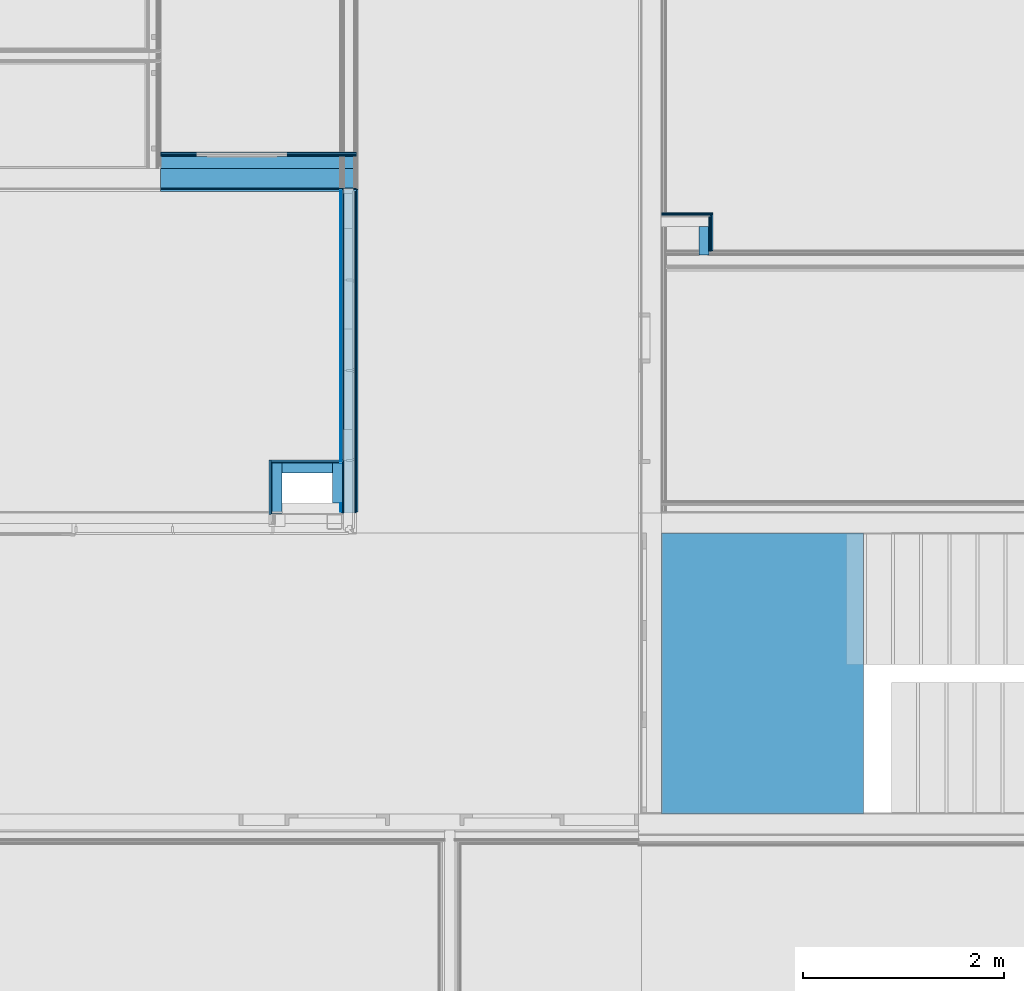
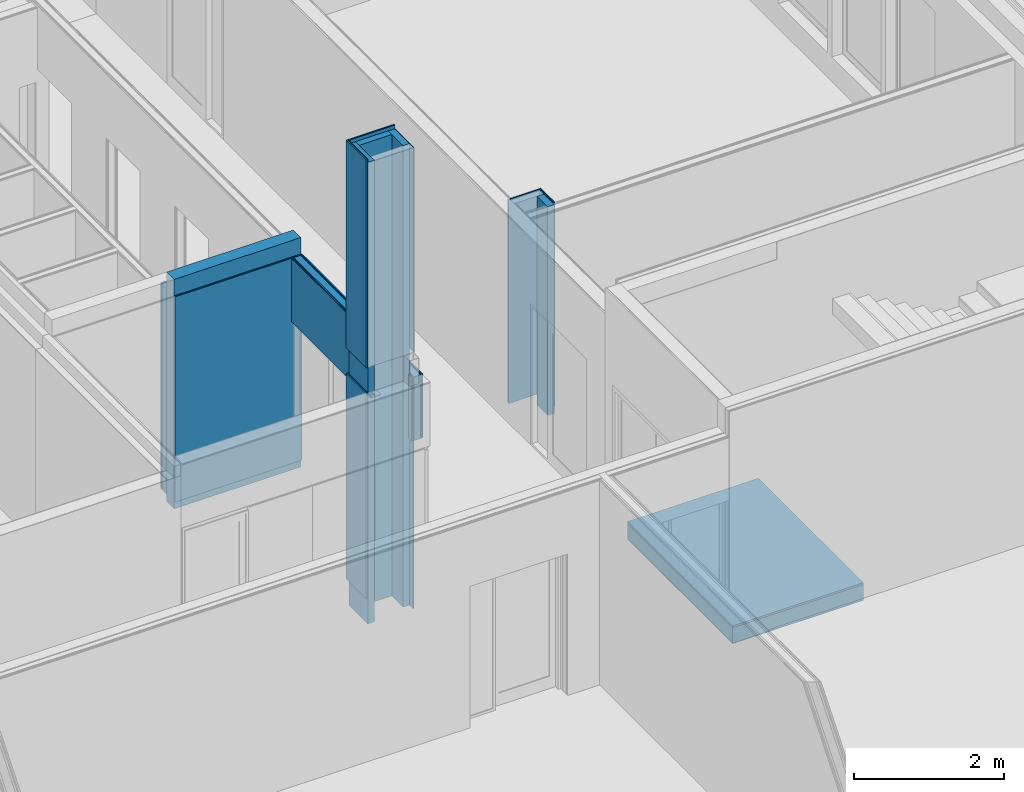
# One storey, part 111 of 139: 31 building element parts, 2 openings, 8 elements without a shape of their own.
"""IFC2X3 building model written with IfcOpenShell, lengths in millimetres."""

from ifc_helpers import new_model, entity, si_unit, converted_unit, derived_unit, money_unit, direction, frame, origin_with_axes, place, context, subcontext, project, spatial, faceted_brep, material, type_object, element, aggregate, save


model = new_model("IFC2X3")

# Units and contexts
model_context = context("Model", 3, precision=0.01, world=origin_with_axes(), true_north=direction((0.0, 1.0)))
body_context = subcontext(model_context, "Body", "Model", "MODEL_VIEW")
ifc_project = project(units=[si_unit("LENGTHUNIT", "METRE", prefix="MILLI"), si_unit("AREAUNIT", "SQUARE_METRE"), si_unit("VOLUMEUNIT", "CUBIC_METRE"), converted_unit("PLANEANGLEUNIT", "DEGREE", entity("IfcPlaneAngleMeasure", 0.0174532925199), si_unit("PLANEANGLEUNIT", "RADIAN"), dimensions=[0, 0, 0, 0, 0, 0, 0]), money_unit("EUR"), converted_unit("TIMEUNIT", "Year", entity("IfcTimeMeasure", 31556926.0), si_unit("TIMEUNIT", "SECOND"), dimensions=[0, 0, 1, 0, 0, 0, 0]), si_unit("MASSUNIT", "GRAM", prefix="KILO"), si_unit("THERMODYNAMICTEMPERATUREUNIT", "DEGREE_CELSIUS"), si_unit("LUMINOUSINTENSITYUNIT", "LUMEN"), si_unit("ENERGYUNIT", "JOULE", prefix="MEGA"), derived_unit("THERMALCONDUCTANCEUNIT", [(si_unit("POWERUNIT", "WATT"), 1), (si_unit("LENGTHUNIT", "METRE"), -1), (si_unit("THERMODYNAMICTEMPERATUREUNIT", "KELVIN"), -1)]), derived_unit("SPECIFICHEATCAPACITYUNIT", [(si_unit("ENERGYUNIT", "JOULE"), 1), (si_unit("MASSUNIT", "GRAM", prefix="KILO"), -1), (si_unit("THERMODYNAMICTEMPERATUREUNIT", "KELVIN"), -1)]), derived_unit("MASSDENSITYUNIT", [(si_unit("MASSUNIT", "GRAM", prefix="KILO"), 1), (si_unit("VOLUMEUNIT", "CUBIC_METRE"), -1)])], contexts=[model_context])

# Site, building, storey
site_placement = place(None, origin_with_axes())
site = spatial("IfcSite", under=ifc_project, at=site_placement, Name="Kolde pst 67a", CompositionType="ELEMENT")
building_placement = place(site_placement, origin_with_axes())
building = spatial("IfcBuilding", under=site, at=building_placement, Name="Riigigümnaasium", CompositionType="ELEMENT")
storey_placement = place(building_placement, frame((0.0, 0.0, 4600.0), z_axis=(0.0, 0.0, 1.0), x_axis=(1.0, 0.0, 0.0)))
storey = spatial("IfcBuildingStorey", under=building, at=storey_placement, Name="2. korrus", CompositionType="ELEMENT", Elevation=4600.0)

# Wall, openings, building element parts
wall_type_1 = type_object("IfcWallType", Name="SS-KP-20/6_plokksein dold+plaat+kollektor  390", PredefinedType="NOTDEFINED")
wall_1_placement = place(storey_placement, frame((73779.99953, 14329.3653119, -150.0), z_axis=(0.0, 0.0, 1.0), x_axis=(-1.0, 0.0, 0.0)))
wall_1 = element("IfcWall", 1, at=wall_1_placement, inside=storey, type_object=wall_type_1, Name="Sisesein")
opening_1_placement = place(wall_1_placement, frame((73779.99953, 14329.3653119, -4450.0), z_axis=(0.0, 0.0, 1.0), x_axis=(-1.0, 0.0, 0.0)))
element("IfcOpeningElement", 2, at=opening_1_placement, cuts=wall_1, Name="Tulekustuti nišš vastavalt SA osale", ObjectType="OPENING", context=body_context, shape_type="Brep", body=[
    faceted_brep([(73344.9995301, 14289.3653119, 5380.0), (73344.9995301, 14289.3653119, 6700.0), (73344.9995301, 14489.3653119, 6700.0), (73344.9995301, 14489.3653119, 5380.0), (73594.9995301, 14289.3653119, 5380.0), (73594.9995301, 14289.3653119, 6700.0), (73594.9995301, 14489.3653119, 6700.0), (73594.9995301, 14489.3653119, 5380.0)], [[[0, 1, 2, 3]], [[0, 4, 5, 1]], [[1, 5, 6, 2]], [[3, 2, 6, 7]], [[4, 0, 3, 7]], [[5, 4, 7, 6]]]),
])
opening_2_placement = place(wall_1_placement, frame((73779.99953, 14329.3653119, -4450.0), z_axis=(0.0, 0.0, 1.0), x_axis=(-1.0, 0.0, 0.0)))
element("IfcOpeningElement", 3, at=opening_2_placement, cuts=wall_1, Name="Küttekollektori nišš, luuk vastavalt SA osale", ObjectType="OPENING", context=body_context, shape_type="Brep", body=[
    faceted_brep([(73089.99953, 14489.3653119, 4600.0), (73089.99953, 14489.3653119, 5500.0), (73089.99953, 14329.3653119, 5500.0), (73089.99953, 14329.3653119, 4600.0), (72189.99953, 14489.3653119, 4600.0), (72189.99953, 14489.3653119, 5500.0), (72189.99953, 14329.3653119, 5500.0), (72189.99953, 14329.3653119, 4600.0)], [[[0, 1, 2, 3]], [[0, 4, 5, 1]], [[1, 5, 6, 2]], [[3, 2, 6, 7]], [[4, 0, 3, 7]], [[5, 4, 7, 6]]]),
])
ifc_material_1 = material(Name="_VIIMISTLUSKIHT - viimistlus vastavalt SA osale")
building_element_part_1_placement = place(wall_1_placement, origin_with_axes())
building_element_part_1 = element("IfcBuildingElementPart", 4, at=building_element_part_1_placement, material=ifc_material_1, Name="_VIIMISTLUSKIHT - viimistlus vastavalt SA osale", context=body_context, shape_type="Brep", body=[
    faceted_brep([(1949.99934989, 210.0, 3485.0), (0.0, 210.0, 3485.0), (0.0, 210.0, 150.0), (1949.99934989, 210.0, 150.0), (0.0, 230.0, 3485.0), (1949.99934989, 230.0, 3485.0), (0.0, 230.0, 150.0), (1949.99934989, 230.0, 150.0)], [[[0, 1, 2, 3]], [[4, 1, 0, 5]], [[1, 4, 6, 2]], [[3, 2, 6, 7]], [[5, 0, 3, 7]], [[4, 5, 7, 6]]]),
])
ifc_material_2 = material(Name="_KARKASS - eriprofiilkinnitus vastavalt sisemisele plaatviimistlusele")
building_element_part_2_placement = place(wall_1_placement, origin_with_axes())
building_element_part_2 = element("IfcBuildingElementPart", 5, at=building_element_part_2_placement, material=ifc_material_2, Name="_KARKASS - eriprofiilkinnitus vastavalt sisemisele plaatviimistlusele", context=body_context, shape_type="Brep", body=[
    faceted_brep([(1949.99934989, 200.0, 3485.0), (0.0, 200.0, 3485.0), (0.0, 200.0, 147.0), (1949.99934989, 200.0, 147.0), (0.0, 210.0, 3485.0), (1949.99934989, 210.0, 3485.0), (0.0, 210.0, 147.0), (1949.99934989, 210.0, 147.0)], [[[0, 1, 2, 3]], [[4, 1, 0, 5]], [[1, 4, 6, 2]], [[3, 2, 6, 7]], [[5, 0, 3, 7]], [[4, 5, 7, 6]]]),
])
ifc_material_3 = material(Name="_KANDETARIND - kergplokk Fibo3 200mm")
building_element_part_3_placement = place(wall_1_placement, origin_with_axes())
building_element_part_3 = element("IfcBuildingElementPart", 6, at=building_element_part_3_placement, material=ifc_material_3, Name="_KANDETARIND - kergplokk Fibo3 200mm", context=body_context, shape_type="Brep", body=[
    faceted_brep([(1949.99934989, 0.0, 3750.0), (0.0, 0.0, 3750.0), (0.0, 0.0, 20.0), (1949.99934989, 0.0, 20.0), (184.999999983, 0.0, 2250.0), (434.999999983, 0.0, 2250.0), (434.999999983, 0.0, 930.0), (184.999999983, 0.0, 930.0), (0.0, 129.365339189, 3750.0), (1949.99934989, 200.0, 3750.0), (0.0, 200.0, 3750.0), (0.0, 200.0, 20.0), (0.0, 129.365339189, 20.0), (1949.99934989, 200.0, 20.0), (184.999999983, 39.999999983, 2250.0), (434.999999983, 39.999999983, 2250.0), (434.999999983, 39.999999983, 930.0), (184.999999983, 39.999999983, 930.0)], [[[0, 1, 2, 3], [4, 5, 6, 7]], [[8, 1, 0, 9, 10]], [[1, 8, 10, 11, 12, 2]], [[3, 2, 12, 11, 13]], [[0, 3, 13, 9]], [[14, 15, 5, 4]], [[15, 16, 6, 5]], [[16, 17, 7, 6]], [[17, 14, 4, 7]], [[10, 9, 13, 11]], [[17, 16, 15, 14]]]),
])
building_element_part_4_placement = place(wall_1_placement, origin_with_axes())
building_element_part_4 = element("IfcBuildingElementPart", 7, at=building_element_part_4_placement, material=ifc_material_2, Name="_KARKASS - eriprofiilkinnitus vastavalt sisemisele plaatviimistlusele", context=body_context, shape_type="Brep", body=[
    faceted_brep([(1949.99934989, -120.0, 135.0), (1949.99934989, -120.0, 3485.0), (0.0, -120.0, 3485.0), (0.0, -120.0, 135.0), (184.999999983, -120.0, 930.0), (184.999999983, -120.0, 2250.0), (434.999999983, -120.0, 2250.0), (434.999999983, -120.0, 930.0), (690.0, -120.0, 150.0), (690.0, -120.0, 1050.0), (1590.0, -120.0, 1050.0), (1590.0, -120.0, 150.0), (1949.99934989, 0.0, 135.0), (1949.99934989, 0.0, 3485.0), (0.0, 0.0, 3485.0), (0.0, 0.0, 135.0), (184.999999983, 0.0, 930.0), (184.999999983, 0.0, 2250.0), (434.999999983, 0.0, 2250.0), (434.999999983, 0.0, 930.0), (690.0, 0.0, 150.0), (690.0, 0.0, 1050.0), (1590.0, 0.0, 1050.0), (1590.0, 0.0, 150.0)], [[[0, 1, 2, 3], [4, 5, 6, 7], [8, 9, 10, 11]], [[12, 13, 1, 0]], [[13, 14, 2, 1]], [[3, 2, 14, 15]], [[12, 0, 3, 15]], [[4, 16, 17, 5]], [[5, 17, 18, 6]], [[6, 18, 19, 7]], [[7, 19, 16, 4]], [[8, 20, 21, 9]], [[9, 21, 22, 10]], [[10, 22, 23, 11]], [[11, 23, 20, 8]], [[15, 14, 13, 12], [18, 17, 16, 19], [22, 21, 20, 23]]]),
])
ifc_material_4 = material(Name="_PLAATMATERJAL - kipsplaat veekindel")
building_element_part_5_placement = place(wall_1_placement, origin_with_axes())
building_element_part_5 = element("IfcBuildingElementPart", 8, at=building_element_part_5_placement, material=ifc_material_4, Name="_PLAATMATERJAL - kipsplaat veekindel", context=body_context, shape_type="Brep", body=[
    faceted_brep([(1949.99934989, -132.5, 135.0), (1949.99934989, -132.5, 3485.0), (0.0, -132.5, 3485.0), (0.0, -132.5, 135.0), (184.999999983, -132.5, 930.0), (184.999999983, -132.5, 2250.0), (434.999999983, -132.5, 2250.0), (434.999999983, -132.5, 930.0), (1590.00002726, -132.500005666, 1650.0), (1590.00002726, -132.500005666, 1050.0), (1590.0, -132.5, 150.0), (690.0, -132.5, 150.0), (690.000009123, -132.500005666, 1050.0), (690.000009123, -132.500005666, 1650.0), (1949.99934989, -120.0, 135.0), (1949.99934989, -120.0, 3485.0), (0.0, -120.0, 3485.0), (0.0, -120.0, 135.0), (184.999999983, -120.0, 930.0), (184.999999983, -120.0, 2250.0), (434.999999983, -120.0, 2250.0), (434.999999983, -120.0, 930.0), (1590.00002726, -120.000005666, 1650.0), (1590.00002726, -120.000005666, 1050.0), (1590.0, -120.0, 150.0), (690.0, -120.0, 150.0), (690.000009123, -120.000005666, 1050.0), (690.000009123, -120.000005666, 1650.0)], [[[0, 1, 2, 3], [4, 5, 6, 7], [8, 9, 10, 11, 12, 13]], [[14, 15, 1, 0]], [[15, 16, 2, 1]], [[3, 2, 16, 17]], [[14, 0, 3, 17]], [[4, 18, 19, 5]], [[5, 19, 20, 6]], [[6, 20, 21, 7]], [[7, 21, 18, 4]], [[9, 8, 22, 23]], [[9, 23, 24, 10]], [[10, 24, 25, 11]], [[26, 12, 11, 25]], [[13, 12, 26, 27]], [[8, 13, 27, 22]], [[17, 16, 15, 14], [20, 19, 18, 21], [27, 26, 25, 24, 23, 22]]]),
])
building_element_part_6_placement = place(wall_1_placement, origin_with_axes())
building_element_part_6 = element("IfcBuildingElementPart", 9, at=building_element_part_6_placement, material=ifc_material_4, Name="_PLAATMATERJAL - kipsplaat veekindel", context=body_context, shape_type="Brep", body=[
    faceted_brep([(1949.99934989, -145.0, 135.0), (1949.99934989, -145.0, 3485.0), (0.0, -145.0, 3485.0), (0.0, -145.0, 135.0), (184.999999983, -145.0, 930.0), (184.999999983, -145.0, 2250.0), (434.999999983, -145.0, 2250.0), (434.999999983, -145.0, 930.0), (1590.00002726, -145.000005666, 1650.0), (1590.00002726, -145.000005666, 1050.0), (1590.0, -145.0, 150.0), (690.0, -145.0, 150.0), (690.000009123, -145.000005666, 1050.0), (690.000009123, -145.000005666, 1650.0), (1949.99934989, -132.5, 135.0), (1949.99934989, -132.5, 3485.0), (0.0, -132.5, 3485.0), (0.0, -132.5, 135.0), (184.999999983, -132.5, 930.0), (184.999999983, -132.5, 2250.0), (434.999999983, -132.5, 2250.0), (434.999999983, -132.5, 930.0), (1590.00002726, -132.500005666, 1650.0), (1590.00002726, -132.500005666, 1050.0), (1590.0, -132.5, 150.0), (690.0, -132.5, 150.0), (690.000009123, -132.500005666, 1050.0), (690.000009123, -132.500005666, 1650.0)], [[[0, 1, 2, 3], [4, 5, 6, 7], [8, 9, 10, 11, 12, 13]], [[14, 15, 1, 0]], [[15, 16, 2, 1]], [[3, 2, 16, 17]], [[14, 0, 3, 17]], [[4, 18, 19, 5]], [[5, 19, 20, 6]], [[6, 20, 21, 7]], [[7, 21, 18, 4]], [[9, 8, 22, 23]], [[9, 23, 24, 10]], [[10, 24, 25, 11]], [[26, 12, 11, 25]], [[13, 12, 26, 27]], [[8, 13, 27, 22]], [[17, 16, 15, 14], [20, 19, 18, 21], [27, 26, 25, 24, 23, 22]]]),
])
building_element_part_7_placement = place(wall_1_placement, origin_with_axes())
building_element_part_7 = element("IfcBuildingElementPart", 10, at=building_element_part_7_placement, material=ifc_material_1, Name="_VIIMISTLUSKIHT - viimistlus vastavalt SA osale", context=body_context, shape_type="Brep", body=[
    faceted_brep([(1590.00002726, -160.000005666, 1650.0), (1590.00002726, -160.000005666, 1050.0), (1590.0, -160.0, 150.0), (1949.99934989, -160.0, 150.0), (1949.99934989, -160.0, 3485.0), (0.0, -160.0, 3485.0), (0.0, -160.0, 150.0), (690.0, -160.0, 150.0), (690.000009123, -160.000005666, 1050.0), (690.000009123, -160.000005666, 1650.0), (184.999999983, -160.000000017, 930.0), (184.999999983, -160.000000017, 2250.0), (434.999999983, -160.000000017, 2250.0), (434.999999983, -160.000000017, 930.0), (1590.00002726, -145.000005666, 1650.0), (1590.00002726, -145.000005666, 1050.0), (1590.0, -145.0, 150.0), (1949.99934989, -145.0, 150.0), (1949.99934989, -145.0, 3485.0), (0.0, -145.0, 3485.0), (0.0, -145.0, 150.0), (690.0, -145.0, 150.0), (690.000009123, -145.000005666, 1050.0), (690.000009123, -145.000005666, 1650.0), (184.999999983, -145.0, 930.0), (184.999999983, -145.0, 2250.0), (434.999999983, -145.0, 2250.0), (434.999999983, -145.0, 930.0)], [[[0, 1, 2, 3, 4, 5, 6, 7, 8, 9], [10, 11, 12, 13]], [[1, 0, 14, 15]], [[1, 15, 16, 2]], [[17, 3, 2, 16]], [[17, 18, 4, 3]], [[18, 19, 5, 4]], [[6, 5, 19, 20]], [[21, 7, 6, 20]], [[22, 8, 7, 21]], [[9, 8, 22, 23]], [[0, 9, 23, 14]], [[10, 24, 25, 11]], [[11, 25, 26, 12]], [[12, 26, 27, 13]], [[13, 27, 24, 10]], [[23, 22, 21, 20, 19, 18, 17, 16, 15, 14], [26, 25, 24, 27]]]),
])
aggregate(wall_1, [building_element_part_1, building_element_part_2, building_element_part_3, building_element_part_4, building_element_part_5, building_element_part_6, building_element_part_7])

# Wall, building element parts
wall_type_2 = type_object("IfcWallType", Name="SS-MK-10/7_ plaat+krohv 175", PredefinedType="NOTDEFINED")
wall_2_placement = place(storey_placement, frame((73654.99953, 14119.3653119, 2300.0), z_axis=(0.0, 0.0, 1.0), x_axis=(0.0, -1.0, 0.0)))
wall_2 = element("IfcWall", 11, at=wall_2_placement, inside=storey, type_object=wall_type_2, Name="Sisesein")
building_element_part_8_placement = place(wall_2_placement, origin_with_axes())
building_element_part_8 = element("IfcBuildingElementPart", 12, at=building_element_part_8_placement, material=ifc_material_1, Name="_VIIMISTLUSKIHT - viimistlus vastavalt SA osale", context=body_context, shape_type="Brep", body=[
    faceted_brep([(0.0, 125.0, 1035.0), (0.0, 140.0, 1035.0), (0.0, 140.0, 0.0), (0.0, 125.0, 0.0), (3209.40337125, 125.0, 1035.0), (3209.40337125, 140.0, 1035.0), (3209.40337125, 140.0, 0.0), (3209.40337125, 125.0, 0.0)], [[[0, 1, 2, 3]], [[1, 0, 4, 5]], [[1, 5, 6, 2]], [[6, 7, 3, 2]], [[0, 3, 7, 4]], [[5, 4, 7, 6]]]),
])
ifc_material_5 = material(Name="_PLAATMATERJAL - tuletõkkekipsplaat, Knauf Red GKF või samaväärne")
building_element_part_9_placement = place(wall_2_placement, origin_with_axes())
building_element_part_9 = element("IfcBuildingElementPart", 13, at=building_element_part_9_placement, material=ifc_material_5, Name="_PLAATMATERJAL - tuletõkkekipsplaat, Knauf Red GKF või samaväärne", context=body_context, shape_type="Brep", body=[
    faceted_brep([(0.0, 112.5, 1035.0), (0.0, 125.0, 1035.0), (0.0, 125.0, 0.0), (0.0, 112.5, 0.0), (3219.40337125, 112.5, 1035.0), (3219.40337125, 125.0, 1035.0), (3219.40337125, 125.0, 0.0), (3219.40337125, 112.5, 0.0)], [[[0, 1, 2, 3]], [[1, 0, 4, 5]], [[1, 5, 6, 2]], [[6, 7, 3, 2]], [[0, 3, 7, 4]], [[5, 4, 7, 6]]]),
])
building_element_part_10_placement = place(wall_2_placement, origin_with_axes())
building_element_part_10 = element("IfcBuildingElementPart", 14, at=building_element_part_10_placement, material=ifc_material_5, Name="_PLAATMATERJAL - tuletõkkekipsplaat, Knauf Red GKF või samaväärne", context=body_context, shape_type="Brep", body=[
    faceted_brep([(0.0, 100.0, 1035.0), (0.0, 112.5, 1035.0), (0.0, 112.5, 0.0), (0.0, 100.0, 0.0), (3219.40337125, 100.0, 1035.0), (3219.40337125, 112.5, 1035.0), (3219.40337125, 112.5, 0.0), (3219.40337125, 100.0, 0.0)], [[[0, 1, 2, 3]], [[1, 0, 4, 5]], [[1, 5, 6, 2]], [[6, 7, 3, 2]], [[0, 3, 7, 4]], [[5, 4, 7, 6]]]),
])
ifc_material_6 = material(Name="_KARKASS - metallkarkass CW 100/50/06 ja UW 100/40/06, samm 600, vahel mineraalvill, helineeldetegur αw = 1.0,  ISOVER ACOUSTIC 100mm või samaväärne")
building_element_part_11_placement = place(wall_2_placement, origin_with_axes())
building_element_part_11 = element("IfcBuildingElementPart", 15, at=building_element_part_11_placement, material=ifc_material_6, Name="_KARKASS - metallkarkass CW 100/50/06 ja UW 100/40/06, samm 600, vahel mineraalvill, helineeldetegur αw = 1.0,  ISOVER ACOUSTIC 100mm või samaväärne", context=body_context, shape_type="Brep", body=[
    faceted_brep([(0.0, 0.0, 1035.0), (0.0, 100.0, 1035.0), (0.0, 100.0, 0.0), (0.0, 0.0, 0.0), (3219.40337125, 0.0, 1035.0), (3219.40337125, 100.0, 1035.0), (3219.40337125, 100.0, 0.0), (3219.40337125, 0.0, 0.0)], [[[0, 1, 2, 3]], [[1, 0, 4, 5]], [[1, 5, 6, 2]], [[6, 7, 3, 2]], [[0, 3, 7, 4]], [[5, 4, 7, 6]]]),
])
building_element_part_12_placement = place(wall_2_placement, origin_with_axes())
building_element_part_12 = element("IfcBuildingElementPart", 16, at=building_element_part_12_placement, material=ifc_material_5, Name="_PLAATMATERJAL - tuletõkkekipsplaat, Knauf Red GKF või samaväärne", context=body_context, shape_type="Brep", body=[
    faceted_brep([(2724.42514809, -4.99999532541, 1035.0), (3219.40337125, -4.99999532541, 1035.0), (3219.40337125, 0.0, 1035.0), (0.0, 0.0, 1035.0), (0.0, -12.5, 1035.0), (2724.42514809, -12.5, 1035.0), (2724.42514809, -4.99999532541, 0.0), (3219.40337125, -4.99999532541, 0.0), (3219.40337125, 0.0, 0.0), (0.0, 0.0, 0.0), (0.0, -12.5, 0.0), (2724.42514809, -12.5, 0.0)], [[[0, 1, 2, 3, 4, 5]], [[1, 0, 6, 7]], [[1, 7, 8, 2]], [[9, 3, 2, 8]], [[10, 4, 3, 9]], [[11, 5, 4, 10]], [[0, 5, 11, 6]], [[6, 11, 10, 9, 8, 7]]]),
])
building_element_part_13_placement = place(wall_2_placement, origin_with_axes())
building_element_part_13 = element("IfcBuildingElementPart", 17, at=building_element_part_13_placement, material=ifc_material_5, Name="_PLAATMATERJAL - tuletõkkekipsplaat, Knauf Red GKF või samaväärne", context=body_context, shape_type="Brep", body=[
    faceted_brep([(3219.40337125, -14.9999953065, 1035.0), (3124.42589766, -14.9999949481, 1035.0), (3124.42589766, -14.9999953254, 1040.0), (3219.40337125, -14.999993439, 1040.0), (3124.42589766, -14.9999953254, 0.0), (3219.40337125, -14.9999953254, 0.0), (3124.42589766, -25.0, 0.0), (3124.42589766, -25.0, 1040.0), (3219.40337125, -25.0, 1040.0), (3219.40337125, -25.0, 0.0)], [[[0, 1, 2, 3]], [[4, 1, 0, 5]], [[1, 4, 6, 7, 2]], [[2, 7, 8, 3]], [[5, 0, 3, 8, 9]], [[4, 5, 9, 6]], [[7, 6, 9, 8]]]),
    faceted_brep([(2724.42514809, -14.999993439, 1035.0), (2724.42514809, -12.5, 1035.0), (0.0, -12.5, 1035.0), (0.0, -25.0, 1035.0), (2724.42514809, -25.0, 1035.0), (2724.42514809, -12.5, 0.0), (2724.42514809, -25.0, 0.0), (0.0, -12.5, 0.0), (0.0, -25.0, 0.0)], [[[0, 1, 2, 3, 4]], [[5, 1, 0, 4, 6]], [[1, 5, 7, 2]], [[8, 3, 2, 7]], [[6, 4, 3, 8]], [[5, 6, 8, 7]]]),
])
building_element_part_14_placement = place(wall_2_placement, origin_with_axes())
building_element_part_14 = element("IfcBuildingElementPart", 18, at=building_element_part_14_placement, material=ifc_material_1, Name="_VIIMISTLUSKIHT - viimistlus vastavalt SA osale", context=body_context, shape_type="Brep", body=[
    faceted_brep([(3124.42589766, -25.0, 0.0), (3124.42589766, -25.0, 1040.0), (3209.40337125, -25.0, 1040.0), (3209.40337125, -25.0, 0.0), (3124.42589766, -35.0, 1040.0), (3124.42589766, -35.0, 0.0), (3209.40337125, -35.0, 1040.0), (3209.40337125, -35.0, 0.0)], [[[0, 1, 2, 3]], [[4, 1, 0, 5]], [[1, 4, 6, 2]], [[6, 7, 3, 2]], [[5, 0, 3, 7]], [[4, 5, 7, 6]]]),
    faceted_brep([(2724.42514809, -35.0, 1035.0), (2724.42514809, -25.0, 1035.0), (0.0, -25.0, 1035.0), (0.0, -35.0, 1035.0), (2724.42514809, -25.0, 0.0), (2724.42514809, -35.0, 0.0), (0.0, -25.0, 0.0), (0.0, -35.0, 0.0)], [[[0, 1, 2, 3]], [[4, 1, 0, 5]], [[1, 4, 6, 2]], [[7, 3, 2, 6]], [[5, 0, 3, 7]], [[4, 5, 7, 6]]]),
])
aggregate(wall_2, [building_element_part_8, building_element_part_9, building_element_part_10, building_element_part_11, building_element_part_12, building_element_part_13, building_element_part_14])

# Slab, building element parts
slab_type = type_object("IfcSlabType", Name="VL-RB-25/1_+puitkilp trepikodades 290", PredefinedType="NOTDEFINED")
slab_placement = place(storey_placement, frame((76819.3676584, 7900.00534881, 0.0), z_axis=(0.0, 0.0, 1.0), x_axis=(1.0, 0.0, 0.0)))
slab = element("IfcSlab", 19, at=slab_placement, inside=storey, type_object=slab_type, Name="VAHELAGI", PredefinedType="NOTDEFINED")
building_element_part_15_placement = place(slab_placement, origin_with_axes())
building_element_part_15 = element("IfcBuildingElementPart", 20, at=building_element_part_15_placement, material=ifc_material_1, Name="_VIIMISTLUSKIHT - viimistlus vastavalt SA osale", context=body_context, shape_type="Brep", body=[
    faceted_brep([(2010.27548552, 0.0468545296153, -30.0), (2010.27548552, 0.0468545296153, 0.0), (0.0, 0.0, 0.0), (0.0, 0.0, -30.0), (2010.2492837, 1499.97395828, -30.0), (2010.2492837, 1499.97395828, 0.0), (2010.2492837, 2799.95659577, 0.0), (0.0, 2799.95659577, 0.0), (0.0, 2799.95659577, -30.0), (2010.2492837, 2799.95659577, -30.0)], [[[0, 1, 2, 3]], [[4, 5, 1, 0]], [[2, 1, 5, 6, 7]], [[3, 2, 7, 8]], [[3, 8, 9, 4, 0]], [[9, 6, 5, 4]], [[8, 7, 6, 9]]]),
])
ifc_material_7 = material(Name="_KANDETARIND - monteeritav raudbetoon vastavalt EK osale")
building_element_part_16_placement = place(slab_placement, origin_with_axes())
building_element_part_16 = element("IfcBuildingElementPart", 21, at=building_element_part_16_placement, material=ifc_material_7, Name="_KANDETARIND - monteeritav raudbetoon vastavalt EK osale", context=body_context, shape_type="Brep", body=[
    faceted_brep([(2010.27548552, 0.0468545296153, -280.0), (2010.27548552, 0.0468545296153, -30.0), (0.0, 0.0, -30.0), (0.0, 0.0, -280.0), (2010.2492837, 1499.97395828, -280.0), (2010.2492837, 1499.97395828, -30.0), (2010.2492837, 2799.95659577, -30.0), (0.0, 2799.95659577, -30.0), (0.0, 2799.95659577, -280.0), (2010.2492837, 2799.95659577, -280.0)], [[[0, 1, 2, 3]], [[4, 5, 1, 0]], [[2, 1, 5, 6, 7]], [[3, 2, 7, 8]], [[3, 8, 9, 4, 0]], [[9, 6, 5, 4]], [[8, 7, 6, 9]]]),
])
building_element_part_17_placement = place(slab_placement, origin_with_axes())
building_element_part_17 = element("IfcBuildingElementPart", 22, at=building_element_part_17_placement, material=ifc_material_1, Name="_VIIMISTLUSKIHT - viimistlus vastavalt SA osale", context=body_context, shape_type="Brep", body=[
    faceted_brep([(0.0, 0.0, -290.0), (2010.27548552, 0.0468545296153, -290.0), (2010.27548552, 0.0468545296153, -280.0), (0.0, 0.0, -280.0), (0.0, 2799.95659577, -290.0), (2010.2492837, 2799.95659577, -290.0), (2010.2492837, 1499.97395828, -290.0), (2010.2492837, 1499.97395828, -280.0), (2010.2492837, 2799.95659577, -280.0), (0.0, 2799.95659577, -280.0)], [[[0, 1, 2, 3]], [[0, 4, 5, 6, 1]], [[1, 6, 7, 2]], [[3, 2, 7, 8, 9]], [[4, 0, 3, 9]], [[5, 4, 9, 8]], [[6, 5, 8, 7]]]),
])
aggregate(slab, [building_element_part_15, building_element_part_16, building_element_part_17])

# Wall, building element parts
wall_type_3 = type_object("IfcWallType", Name="SS-KP-10/1_1x dold 130", PredefinedType="NOTDEFINED")
wall_3_placement = place(storey_placement, frame((72939.9987844, 11394.9401664, -425.0), z_axis=(0.0, 0.0, 1.0), x_axis=(-3.77272043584e-09, -1.0, 0.0)))
wall_3 = element("IfcWall", 23, at=wall_3_placement, inside=storey, type_object=wall_type_3, Name="SE šaht")
ifc_material_8 = material(Name="_KANDETARIND - kergplokk Fibo 100mm")
building_element_part_18_placement = place(wall_3_placement, origin_with_axes())
building_element_part_18 = element("IfcBuildingElementPart", 24, at=building_element_part_18_placement, material=ifc_material_8, Name="_KANDETARIND - kergplokk Fibo 100mm", context=body_context, shape_type="Brep", body=[
    faceted_brep([(500.000751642, 100.000001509, 7500.0), (500.00075183, 100.000001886, 0.0), (2.26364527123e-06, 100.0, 0.0), (2.26364527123e-06, 99.9999999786, 7500.0), (500.000752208, 1.88636306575e-06, 0.0), (500.000752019, 1.88636306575e-06, 7500.0), (2.64091681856e-06, 0.0, 0.0), (2.64091681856e-06, 0.0, 7500.0)], [[[0, 1, 2, 3]], [[4, 1, 0, 5]], [[1, 4, 6, 2]], [[2, 6, 7, 3]], [[5, 0, 3, 7]], [[4, 5, 7, 6]]]),
])
building_element_part_19_placement = place(wall_3_placement, origin_with_axes())
building_element_part_19 = element("IfcBuildingElementPart", 25, at=building_element_part_19_placement, material=ifc_material_2, Name="_KARKASS - eriprofiilkinnitus vastavalt sisemisele plaatviimistlusele", context=body_context, shape_type="Brep", body=[
    faceted_brep([(-9.99999732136, -10.0000000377, 3760.0), (-9.99999735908, -3.77298192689e-08, 3760.0), (-9.99999735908, -3.77298192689e-08, 425.0), (-9.99999732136, -10.0000000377, 425.0), (0.0, 0.0, 3760.0), (510.000748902, -9.99999807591, 3760.0), (510.000748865, 1.92409288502e-06, 3760.0), (500.000752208, 0.0, 3760.0), (510.000722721, 1.92409288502e-06, 425.0), (500.000694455, 1.91708551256e-05, 425.0), (0.000100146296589, 1.72844920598e-05, 425.0), (510.000722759, -9.99999807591, 425.0)], [[[0, 1, 2, 3]], [[4, 1, 0, 5, 6, 7]], [[7, 6, 8, 9, 10, 2, 1, 4]], [[11, 3, 2, 10, 9, 8]], [[5, 0, 3, 11]], [[6, 5, 11, 8]]]),
    faceted_brep([(500.000752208, 0.0, 4175.0), (0.0, 0.0, 4175.0), (-9.99999735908, -3.77298192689e-08, 4175.0), (-9.99999735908, -3.77298192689e-08, 7555.00000071), (510.000752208, 1.92409288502e-06, 7555.0), (510.000752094, 1.92409288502e-06, 4175.0), (-9.99999732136, -10.0000000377, 4175.0), (510.000752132, -9.99999807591, 4175.0), (-9.99999732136, -10.0000000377, 7555.00000072), (510.000752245, -9.99999807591, 7555.0)], [[[0, 1, 2, 3, 4, 5]], [[6, 2, 1, 0, 5, 7]], [[2, 6, 8, 3]], [[9, 4, 3, 8]], [[7, 5, 4, 9]], [[6, 7, 9, 8]]]),
])
ifc_material_9 = material(Name="_VIIMISTLUSKIHT - Dold plaat vastavalt SA osale")
building_element_part_20_placement = place(wall_3_placement, origin_with_axes())
building_element_part_20 = element("IfcBuildingElementPart", 26, at=building_element_part_20_placement, material=ifc_material_9, Name="_VIIMISTLUSKIHT - Dold plaat vastavalt SA osale", context=body_context, shape_type="Brep", body=[
    faceted_brep([(-29.9999972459, -30.0000001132, 3760.0), (-29.9999973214, -10.0000001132, 3760.0), (-29.9999973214, -10.0000001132, 425.0), (-29.9999972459, -30.0000001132, 425.0), (510.000748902, -9.99999807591, 3760.0), (510.000748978, -30.000007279, 3760.0), (510.000722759, -9.99999807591, 425.0), (510.000722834, -30.0000655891, 425.0)], [[[0, 1, 2, 3]], [[4, 1, 0, 5]], [[1, 4, 6, 2]], [[7, 3, 2, 6]], [[5, 0, 3, 7]], [[4, 5, 7, 6]]]),
    faceted_brep([(510.000752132, -9.99999807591, 4175.0), (-29.9999973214, -10.0000001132, 4175.0), (-29.9999973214, -10.0000001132, 7555.00000075), (510.000752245, -9.99999807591, 7555.0), (-29.9999972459, -30.0000001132, 4175.0), (510.000752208, -30.0000000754, 4175.0), (-29.9999972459, -30.0000001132, 7555.00000075), (510.000752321, -29.9999980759, 7555.0)], [[[0, 1, 2, 3]], [[4, 1, 0, 5]], [[1, 4, 6, 2]], [[7, 3, 2, 6]], [[5, 0, 3, 7]], [[4, 5, 7, 6]]]),
])
aggregate(wall_3, [building_element_part_18, building_element_part_19, building_element_part_20])

wall_type_4 = type_object("IfcWallType", Name="SS-KP-10/4_SE šahti sein +krohv 110", PredefinedType="NOTDEFINED")
wall_4_placement = place(storey_placement, frame((73639.9995347, 10894.9394116, -425.0), z_axis=(0.0, 0.0, 1.0), x_axis=(3.77272045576e-09, 1.0, 0.0)))
wall_4 = element("IfcWall", 27, at=wall_4_placement, inside=storey, type_object=wall_type_4, Name="SE šaht")
building_element_part_21_placement = place(wall_4_placement, origin_with_axes())
building_element_part_21 = element("IfcBuildingElementPart", 28, at=building_element_part_21_placement, material=ifc_material_8, Name="_KANDETARIND - kergplokk Fibo 100mm", context=body_context, shape_type="Brep", body=[
    faceted_brep([(100.000002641, 3.77269770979e-07, 0.0), (500.000752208, 1.88636306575e-06, 0.0), (500.000752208, 1.88636306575e-06, 7500.0), (100.000002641, 3.77269770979e-07, 7500.0), (100.000002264, 100.000000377, 0.0), (500.00075183, 100.000001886, 0.0), (500.00075183, 100.000001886, 7500.0), (100.000002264, 100.000000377, 7500.0)], [[[0, 1, 2, 3]], [[4, 5, 1, 0]], [[5, 6, 2, 1]], [[3, 2, 6, 7]], [[0, 3, 7, 4]], [[7, 6, 5, 4]]]),
])
building_element_part_22_placement = place(wall_4_placement, origin_with_axes())
building_element_part_22 = element("IfcBuildingElementPart", 29, at=building_element_part_22_placement, material=ifc_material_1, Name="_VIIMISTLUSKIHT - viimistlus vastavalt SA osale", context=body_context, shape_type="Brep", body=[
    faceted_brep([(500.000752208, 0.0, 3760.0), (500.000752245, -9.99999811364, 3760.0), (500.000752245, -9.99999811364, 0.0), (500.000752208, 1.88636306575e-06, 0.0), (2.67864130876e-06, -10.0, 3760.0), (0.0, 0.0, 3760.0), (2.67864130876e-06, -10.0, 0.0), (2.64091504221e-06, 0.0, 0.0)], [[[0, 1, 2, 3]], [[4, 1, 0, 5]], [[1, 4, 6, 2]], [[7, 3, 2, 6]], [[5, 0, 3, 7]], [[4, 5, 7, 6]]]),
    faceted_brep([(2.67864130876e-06, -10.0, 4175.0), (500.000752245, -9.99999811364, 4175.0), (500.000752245, -9.99999811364, 7500.0), (2.67864130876e-06, -10.0, 7500.0), (500.000752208, 0.0, 4175.0), (0.0, 0.0, 4175.0), (500.000752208, 1.90772198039e-06, 7500.0), (2.64091504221e-06, 3.77269770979e-07, 7500.0)], [[[0, 1, 2, 3]], [[4, 1, 0, 5]], [[1, 4, 6, 2]], [[3, 2, 6, 7]], [[5, 0, 3, 7]], [[4, 5, 7, 6]]]),
])
aggregate(wall_4, [building_element_part_21, building_element_part_22])

wall_5_placement = place(storey_placement, frame((73639.9995366, 11394.9401638, -425.0), z_axis=(0.0, 0.0, 1.0), x_axis=(-1.0, 3.77273425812e-09, 0.0)))
wall_5 = element("IfcWall", 30, at=wall_5_placement, inside=storey, type_object=wall_type_3, Name="SE šaht")
building_element_part_23_placement = place(wall_5_placement, origin_with_axes())
building_element_part_23 = element("IfcBuildingElementPart", 31, at=building_element_part_23_placement, material=ifc_material_8, Name="_KANDETARIND - kergplokk Fibo 100mm", context=body_context, shape_type="Brep", body=[
    faceted_brep([(600.000752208, 2.26364349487e-06, 7500.0), (600.00075183, 100.000002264, 7500.0), (100.000001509, 100.000000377, 7500.0), (100.000001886, 3.77273323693e-07, 7500.0), (600.000752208, 2.26364349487e-06, 0.0), (600.00075183, 100.000002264, 0.0), (100.000001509, 100.000000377, 0.0), (100.000001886, 3.77273323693e-07, 0.0)], [[[0, 1, 2, 3]], [[4, 5, 1, 0]], [[1, 5, 6, 2]], [[2, 6, 7, 3]], [[4, 0, 3, 7]], [[5, 4, 7, 6]]]),
])
building_element_part_24_placement = place(wall_5_placement, origin_with_axes())
building_element_part_24 = element("IfcBuildingElementPart", 32, at=building_element_part_24_placement, material=ifc_material_2, Name="_KARKASS - eriprofiilkinnitus vastavalt sisemisele plaatviimistlusele", context=body_context, shape_type="Brep", body=[
    faceted_brep([(700.000752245, -9.99999735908, 3760.0), (-9.99999807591, -10.0000000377, 3760.0), (-9.99999807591, -10.0000000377, 425.0), (700.000752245, -9.99999735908, 425.0), (-9.99999811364, -3.77262665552e-08, 3760.0), (700.000752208, 0.0, 3760.0), (0.0, 0.0, 3760.0), (-9.99999811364, -3.77262665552e-08, 425.0), (700.000734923, 0.000100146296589, 425.0), (-1.52106167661e-05, 9.75053797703e-05, 425.0)], [[[0, 1, 2, 3]], [[4, 1, 0, 5, 6]], [[1, 4, 7, 2]], [[8, 3, 2, 7, 9]], [[5, 0, 3, 8]], [[6, 5, 8, 9, 7, 4]]]),
    faceted_brep([(-9.99999811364, -3.77262665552e-08, 4175.0), (-9.99999807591, -10.0000000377, 4175.0), (-9.99999807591, -10.0000000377, 7555.0), (-9.99999811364, -3.77262665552e-08, 7555.0), (700.000752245, -9.99999735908, 4175.0), (0.0, 0.0, 4175.0), (700.000752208, 0.0, 4175.0), (700.000752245, -9.99999735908, 7555.00000072), (700.000752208, 2.64091681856e-06, 7555.0000007)], [[[0, 1, 2, 3]], [[4, 1, 0, 5, 6]], [[1, 4, 7, 2]], [[3, 2, 7, 8]], [[5, 0, 3, 8, 6]], [[4, 6, 8, 7]]]),
])
building_element_part_25_placement = place(wall_5_placement, origin_with_axes())
building_element_part_25 = element("IfcBuildingElementPart", 33, at=building_element_part_25_placement, material=ifc_material_9, Name="_VIIMISTLUSKIHT - Dold plaat vastavalt SA osale", context=body_context, shape_type="Brep", body=[
    faceted_brep([(710.000752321, -29.9999973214, 3760.0), (-9.99999800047, -30.0000000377, 3760.0), (-9.99999800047, -30.0000000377, 425.0), (710.000752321, -29.9999973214, 425.0), (-9.99999807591, -10.0000000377, 3760.0), (710.000752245, -9.99999732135, 3760.0), (-9.99999807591, -10.0000000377, 425.0), (710.000752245, -9.99999732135, 425.0)], [[[0, 1, 2, 3]], [[4, 1, 0, 5]], [[1, 4, 6, 2]], [[7, 3, 2, 6]], [[5, 0, 3, 7]], [[4, 5, 7, 6]]]),
    faceted_brep([(-9.99999807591, -10.0000000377, 4175.0), (-9.99999800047, -30.0000000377, 4175.0), (-9.99999800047, -30.0000000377, 7555.0), (-9.99999807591, -10.0000000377, 7555.0), (710.000752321, -29.9999973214, 4175.0), (710.000752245, -9.99999732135, 4175.0), (710.000752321, -29.9999973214, 7555.00000075), (710.000752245, -9.99999732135, 7555.00000072)], [[[0, 1, 2, 3]], [[4, 1, 0, 5]], [[1, 4, 6, 2]], [[3, 2, 6, 7]], [[5, 0, 3, 7]], [[4, 5, 7, 6]]]),
])
aggregate(wall_5, [building_element_part_23, building_element_part_24, building_element_part_25])

wall_type_5 = type_object("IfcWallType", Name="SS-MK-10/2_šahti sein+plaat 140", PredefinedType="NOTDEFINED")
wall_6_placement = place(storey_placement, frame((77190.0079122, 13749.9513451, -150.0), z_axis=(0.0, 0.0, 1.0), x_axis=(2.82157974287e-07, -1.0, 0.0)))
wall_6 = element("IfcWall", 34, at=wall_6_placement, inside=storey, type_object=wall_type_5, Name="Varisein")
building_element_part_26_placement = place(wall_6_placement, origin_with_axes())
building_element_part_26 = element("IfcBuildingElementPart", 35, at=building_element_part_26_placement, material=ifc_material_1, Name="_VIIMISTLUSKIHT - viimistlus vastavalt SA osale", context=body_context, shape_type="Brep", body=[
    faceted_brep([(-124.99996473, 124.999999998, 3456.9), (-124.999960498, 140.0, 3456.9), (-124.999960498, 140.0, 150.0), (-124.99996473, 124.999999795, 150.0), (239.999921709, 140.0, 3456.9), (239.999921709, 124.999999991, 3456.9), (239.999921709, 140.0, 150.0), (239.999921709, 124.999999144, 150.0)], [[[0, 1, 2, 3]], [[4, 1, 0, 5]], [[1, 4, 6, 2]], [[3, 2, 6, 7]], [[5, 0, 3, 7]], [[4, 5, 7, 6]]]),
])
building_element_part_27_placement = place(wall_6_placement, origin_with_axes())
building_element_part_27 = element("IfcBuildingElementPart", 36, at=building_element_part_27_placement, material=ifc_material_4, Name="_PLAATMATERJAL - kipsplaat veekindel", context=body_context, shape_type="Brep", body=[
    faceted_brep([(-112.499968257, 112.5, 3456.9), (-112.49996473, 124.999999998, 3456.9), (-112.49996473, 124.999999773, 147.0), (-112.499968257, 112.5, 147.0), (244.999921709, 124.999999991, 3456.9), (244.999921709, 112.5, 3456.9), (244.999921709, 124.999999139, 147.0), (244.999921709, 112.5, 147.0)], [[[0, 1, 2, 3]], [[4, 1, 0, 5]], [[1, 4, 6, 2]], [[3, 2, 6, 7]], [[5, 0, 3, 7]], [[4, 5, 7, 6]]]),
])
building_element_part_28_placement = place(wall_6_placement, origin_with_axes())
building_element_part_28 = element("IfcBuildingElementPart", 37, at=building_element_part_28_placement, material=ifc_material_4, Name="_PLAATMATERJAL - kipsplaat veekindel", context=body_context, shape_type="Brep", body=[
    faceted_brep([(-99.9999717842, 99.9999999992, 3456.9), (-99.9999682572, 112.5, 3456.9), (-99.9999682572, 112.5, 147.0), (-99.9999717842, 99.9999999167, 147.0), (244.999921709, 112.5, 3456.9), (244.999921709, 99.9999999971, 3456.9), (244.999921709, 112.5, 147.0), (244.999921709, 99.9999997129, 147.0)], [[[0, 1, 2, 3]], [[4, 1, 0, 5]], [[1, 4, 6, 2]], [[3, 2, 6, 7]], [[5, 0, 3, 7]], [[4, 5, 7, 6]]]),
])
building_element_part_29_placement = place(wall_6_placement, origin_with_axes())
building_element_part_29 = element("IfcBuildingElementPart", 38, at=building_element_part_29_placement, material=ifc_material_6, Name="_KARKASS - metallkarkass CW 100/50/06 ja UW 100/40/06, samm 600, vahel mineraalvill, helineeldetegur αw = 1.0,  ISOVER ACOUSTIC 100mm või samaväärne", context=body_context, shape_type="Brep", body=[
    faceted_brep([(0.0, 0.0, 3456.9), (2.82157976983e-05, 99.9999999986, 3456.9), (2.82157976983e-05, 99.9999998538, 66.9), (0.0, 0.0, 66.9), (284.999921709, 99.9999999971, 3456.9), (284.999921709, 0.0, 3456.9), (284.999921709, 99.999999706, 66.9), (284.999921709, 0.0, 66.9)], [[[0, 1, 2, 3]], [[4, 1, 0, 5]], [[1, 4, 6, 2]], [[3, 2, 6, 7]], [[5, 0, 3, 7]], [[4, 5, 7, 6]]]),
])
aggregate(wall_6, [building_element_part_26, building_element_part_27, building_element_part_28, building_element_part_29])

wall_7_placement = place(storey_placement, frame((76819.9946973, 13749.9513451, -150.0), z_axis=(0.0, 0.0, 1.0), x_axis=(1.0, 0.0, 0.0)))
wall_7 = element("IfcWall", 39, at=wall_7_placement, inside=storey, type_object=wall_type_5, Name="Varisein")
building_element_part_30_placement = place(wall_7_placement, origin_with_axes())
building_element_part_30 = element("IfcBuildingElementPart", 40, at=building_element_part_30_placement, material=ifc_material_1, Name="_VIIMISTLUSKIHT - viimistlus vastavalt SA osale", context=body_context, shape_type="Brep", body=[
    faceted_brep([(-2.10440305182e-05, 140.0, 3456.9), (510.013175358, 140.0, 3456.9), (510.013175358, 140.0, 150.0), (0.0, 140.0, 150.0), (510.01317959, 125.0, 3456.9), (-2.10440305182e-05, 125.0, 3456.9), (510.01317959, 125.0, 150.0), (0.0, 125.0, 150.0)], [[[0, 1, 2, 3]], [[4, 1, 0, 5]], [[1, 4, 6, 2]], [[3, 2, 6, 7]], [[5, 0, 3, 7]], [[4, 5, 7, 6]]]),
])
building_element_part_31_placement = place(wall_7_placement, origin_with_axes())
building_element_part_31 = element("IfcBuildingElementPart", 41, at=building_element_part_31_placement, material=ifc_material_4, Name="_PLAATMATERJAL - kipsplaat veekindel", context=body_context, shape_type="Brep", body=[
    faceted_brep([(-2.10440305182e-05, 125.0, 3456.9), (495.01317959, 125.0, 3456.9), (495.01317959, 125.0, 147.0), (0.0, 125.0, 147.0), (495.013183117, 112.5, 3456.9), (-2.10440305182e-05, 112.5, 3456.9), (495.013183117, 112.5, 147.0), (0.0, 112.5, 147.0)], [[[0, 1, 2, 3]], [[4, 1, 0, 5]], [[1, 4, 6, 2]], [[3, 2, 6, 7]], [[5, 0, 3, 7]], [[4, 5, 7, 6]]]),
])
aggregate(wall_7, [building_element_part_30, building_element_part_31])

save(model, "model.ifc")
